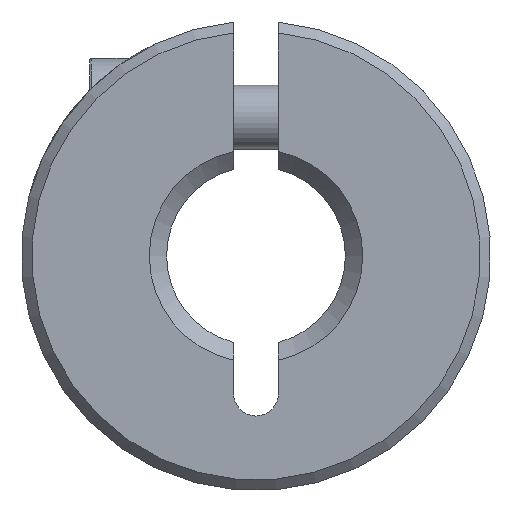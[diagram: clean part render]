
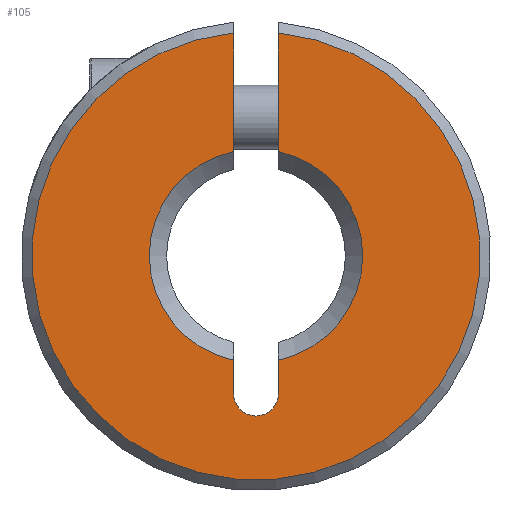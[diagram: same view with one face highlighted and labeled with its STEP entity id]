
A CAD part, left-side view. The second image highlights one B-rep face of the part: STEP entity #105.
In plain terms, the highlighted planar face has unit normal (-1, 0, 0).
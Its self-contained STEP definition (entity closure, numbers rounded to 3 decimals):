
#105 = ADVANCED_FACE( '', ( #178 ), #179, .F. );
#178 = FACE_OUTER_BOUND( '', #251, .T. );
#179 = PLANE( '', #252 );
#251 = EDGE_LOOP( '', ( #473, #474, #475, #476, #477, #478, #479, #480 ) );
#252 = AXIS2_PLACEMENT_3D( '', #481, #482, #483 );
#473 = ORIENTED_EDGE( '', *, *, #550, .T. );
#474 = ORIENTED_EDGE( '', *, *, #517, .T. );
#475 = ORIENTED_EDGE( '', *, *, #526, .T. );
#476 = ORIENTED_EDGE( '', *, *, #508, .F. );
#477 = ORIENTED_EDGE( '', *, *, #504, .T. );
#478 = ORIENTED_EDGE( '', *, *, #513, .T. );
#479 = ORIENTED_EDGE( '', *, *, #488, .T. );
#480 = ORIENTED_EDGE( '', *, *, #552, .T. );
#481 = CARTESIAN_POINT( '', ( -4.5, 0., 0. ) );
#482 = DIRECTION( '', ( 1., 0., 0. ) );
#483 = DIRECTION( '', ( 0., 0., -1. ) );
#488 = EDGE_CURVE( '', #562, #560, #563, .T. );
#504 = EDGE_CURVE( '', #579, #592, #594, .T. );
#508 = EDGE_CURVE( '', #579, #600, #601, .T. );
#513 = EDGE_CURVE( '', #592, #562, #607, .T. );
#517 = EDGE_CURVE( '', #614, #612, #615, .T. );
#526 = EDGE_CURVE( '', #612, #600, #626, .T. );
#550 = EDGE_CURVE( '', #667, #614, #668, .T. );
#552 = EDGE_CURVE( '', #560, #667, #670, .T. );
#560 = VERTEX_POINT( '', #683 );
#562 = VERTEX_POINT( '', #686 );
#563 = LINE( '', #687, #688 );
#579 = VERTEX_POINT( '', #778 );
#592 = VERTEX_POINT( '', #803 );
#594 = LINE( '', #808, #809 );
#600 = VERTEX_POINT( '', #818 );
#601 = CIRCLE( '', #819, 10.5 );
#607 = CIRCLE( '', #829, 5. );
#612 = VERTEX_POINT( '', #834 );
#614 = VERTEX_POINT( '', #839 );
#615 = CIRCLE( '', #840, 5. );
#626 = LINE( '', #858, #859 );
#667 = VERTEX_POINT( '', #918 );
#668 = LINE( '', #919, #920 );
#670 = CIRCLE( '', #923, 1.05 );
#683 = CARTESIAN_POINT( '', ( -4.5, -1.05, -6.45 ) );
#686 = CARTESIAN_POINT( '', ( -4.5, -1.05, -4.889 ) );
#687 = CARTESIAN_POINT( '', ( -4.5, -1.05, 0. ) );
#688 = VECTOR( '', #927, 1000. );
#778 = CARTESIAN_POINT( '', ( -4.5, -1.05, 10.447 ) );
#803 = CARTESIAN_POINT( '', ( -4.5, -1.05, 4.889 ) );
#808 = CARTESIAN_POINT( '', ( -4.5, -1.05, 14.667 ) );
#809 = VECTOR( '', #943, 1000. );
#818 = CARTESIAN_POINT( '', ( -4.5, 1.05, 10.447 ) );
#819 = AXIS2_PLACEMENT_3D( '', #950, #951, #952 );
#829 = AXIS2_PLACEMENT_3D( '', #960, #961, #962 );
#834 = CARTESIAN_POINT( '', ( -4.5, 1.05, 4.889 ) );
#839 = CARTESIAN_POINT( '', ( -4.5, 1.05, -4.889 ) );
#840 = AXIS2_PLACEMENT_3D( '', #969, #970, #971 );
#858 = CARTESIAN_POINT( '', ( -4.5, 1.05, 0. ) );
#859 = VECTOR( '', #985, 1000. );
#918 = CARTESIAN_POINT( '', ( -4.5, 1.05, -6.45 ) );
#919 = CARTESIAN_POINT( '', ( -4.5, 1.05, -6.45 ) );
#920 = VECTOR( '', #1019, 1000. );
#923 = AXIS2_PLACEMENT_3D( '', #1021, #1022, #1023 );
#927 = DIRECTION( '', ( 0., 0., -1. ) );
#943 = DIRECTION( '', ( 0., 0., -1. ) );
#950 = CARTESIAN_POINT( '', ( -4.5, 0., 0. ) );
#951 = DIRECTION( '', ( 1., 0., 0. ) );
#952 = DIRECTION( '', ( 0., 0., -1. ) );
#960 = CARTESIAN_POINT( '', ( -4.5, 0., 0. ) );
#961 = DIRECTION( '', ( 1., 0., 0. ) );
#962 = DIRECTION( '', ( 0., 0., -1. ) );
#969 = CARTESIAN_POINT( '', ( -4.5, 0., 0. ) );
#970 = DIRECTION( '', ( 1., 0., 0. ) );
#971 = DIRECTION( '', ( 0., 0., -1. ) );
#985 = DIRECTION( '', ( 0., 0., 1. ) );
#1019 = DIRECTION( '', ( 0., 0., 1. ) );
#1021 = CARTESIAN_POINT( '', ( -4.5, 0., -6.45 ) );
#1022 = DIRECTION( '', ( 1., 0., 0. ) );
#1023 = DIRECTION( '', ( 0., 0., -1. ) );
